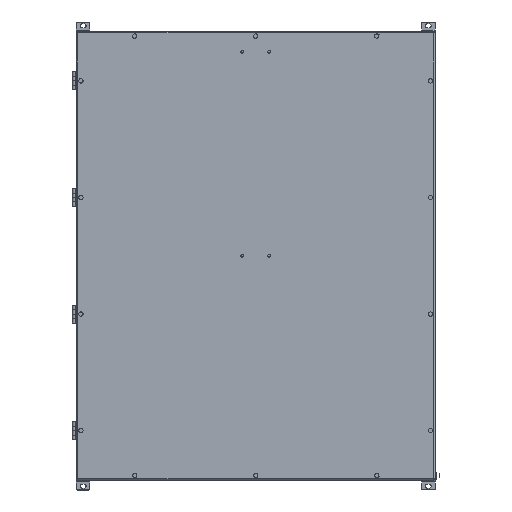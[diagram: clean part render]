
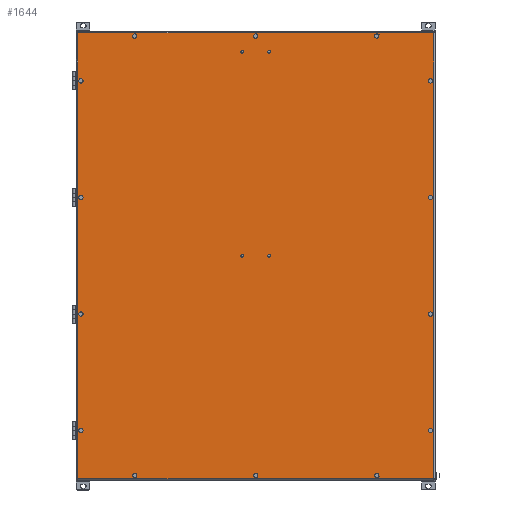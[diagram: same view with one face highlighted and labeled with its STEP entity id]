
A CAD part, top view. The second image highlights one B-rep face of the part: STEP entity #1644.
In plain terms, the highlighted planar face has unit normal (0, 0, 1).
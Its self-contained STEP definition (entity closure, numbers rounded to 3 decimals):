
#1064=CARTESIAN_POINT('',(-397.0,-497.0,300.5));
#1065=VERTEX_POINT('',#1064);
#1083=CARTESIAN_POINT('',(397.,-497.0,300.5));
#1084=VERTEX_POINT('',#1083);
#1092=CARTESIAN_POINT('',(397.0,-497.0,300.5));
#1093=DIRECTION('',(-1.0,0.0,0.0));
#1094=VECTOR('',#1093,794.0);
#1095=LINE('',#1092,#1094);
#1096=EDGE_CURVE('',#1084,#1065,#1095,.T.);
#1106=CARTESIAN_POINT('',(-397.,497.0,300.5));
#1107=VERTEX_POINT('',#1106);
#1132=CARTESIAN_POINT('',(-397.0,-497.,300.5));
#1133=DIRECTION('',(0.0,1.0,0.0));
#1134=VECTOR('',#1133,994.0);
#1135=LINE('',#1132,#1134);
#1136=EDGE_CURVE('',#1065,#1107,#1135,.T.);
#1146=CARTESIAN_POINT('',(397.0,497.0,300.5));
#1147=VERTEX_POINT('',#1146);
#1172=CARTESIAN_POINT('',(-397.,497.0,300.5));
#1173=DIRECTION('',(1.0,0.0,0.0));
#1174=VECTOR('',#1173,794.);
#1175=LINE('',#1172,#1174);
#1176=EDGE_CURVE('',#1107,#1147,#1175,.T.);
#1210=CARTESIAN_POINT('',(397.0,497.0,300.5));
#1211=DIRECTION('',(0.0,-1.0,0.0));
#1212=VECTOR('',#1211,994.0);
#1213=LINE('',#1210,#1212);
#1214=EDGE_CURVE('',#1147,#1084,#1213,.T.);
#1435=CARTESIAN_POINT('',(0.,0.,300.5));
#1436=DIRECTION('',(0.0,0.0,1.0));
#1437=DIRECTION('',(1.0,0.0,0.0));
#1438=AXIS2_PLACEMENT_3D('',#1435,#1436,#1437);
#1439=PLANE('',#1438);
#1440=ORIENTED_EDGE('',*,*,#1096,.F.);
#1441=ORIENTED_EDGE('',*,*,#1214,.F.);
#1442=ORIENTED_EDGE('',*,*,#1176,.F.);
#1443=ORIENTED_EDGE('',*,*,#1136,.F.);
#1444=EDGE_LOOP('',(#1440,#1441,#1442,#1443));
#1445=FACE_OUTER_BOUND('',#1444,.T.);
#1446=CARTESIAN_POINT('',(-386.25,390.0,300.5));
#1447=VERTEX_POINT('',#1446);
#1448=CARTESIAN_POINT('',(-390.,390.0,300.5));
#1449=DIRECTION('',(0.0,0.0,-1.0));
#1450=DIRECTION('',(-1.0,0.0,0.0));
#1451=AXIS2_PLACEMENT_3D('',#1448,#1449,#1450);
#1452=CIRCLE('',#1451,3.75);
#1453=EDGE_CURVE('',#1447,#1447,#1452,.T.);
#1454=ORIENTED_EDGE('',*,*,#1453,.T.);
#1455=EDGE_LOOP('',(#1454));
#1456=FACE_BOUND('',#1455,.T.);
#1457=CARTESIAN_POINT('',(393.75,390.,300.5));
#1458=VERTEX_POINT('',#1457);
#1459=CARTESIAN_POINT('',(390.,390.,300.5));
#1460=DIRECTION('',(0.0,0.0,-1.0));
#1461=DIRECTION('',(-1.0,0.0,0.0));
#1462=AXIS2_PLACEMENT_3D('',#1459,#1460,#1461);
#1463=CIRCLE('',#1462,3.75);
#1464=EDGE_CURVE('',#1458,#1458,#1463,.T.);
#1465=ORIENTED_EDGE('',*,*,#1464,.T.);
#1466=EDGE_LOOP('',(#1465));
#1467=FACE_BOUND('',#1466,.T.);
#1468=CARTESIAN_POINT('',(-386.25,130.,300.5));
#1469=VERTEX_POINT('',#1468);
#1470=CARTESIAN_POINT('',(-390.,130.,300.5));
#1471=DIRECTION('',(0.0,0.0,-1.0));
#1472=DIRECTION('',(-1.0,0.0,0.0));
#1473=AXIS2_PLACEMENT_3D('',#1470,#1471,#1472);
#1474=CIRCLE('',#1473,3.75);
#1475=EDGE_CURVE('',#1469,#1469,#1474,.T.);
#1476=ORIENTED_EDGE('',*,*,#1475,.T.);
#1477=EDGE_LOOP('',(#1476));
#1478=FACE_BOUND('',#1477,.T.);
#1479=CARTESIAN_POINT('',(393.75,130.,300.5));
#1480=VERTEX_POINT('',#1479);
#1481=CARTESIAN_POINT('',(390.,130.,300.5));
#1482=DIRECTION('',(0.0,0.0,-1.0));
#1483=DIRECTION('',(-1.0,0.0,0.0));
#1484=AXIS2_PLACEMENT_3D('',#1481,#1482,#1483);
#1485=CIRCLE('',#1484,3.75);
#1486=EDGE_CURVE('',#1480,#1480,#1485,.T.);
#1487=ORIENTED_EDGE('',*,*,#1486,.T.);
#1488=EDGE_LOOP('',(#1487));
#1489=FACE_BOUND('',#1488,.T.);
#1490=CARTESIAN_POINT('',(-386.25,-130.,300.5));
#1491=VERTEX_POINT('',#1490);
#1492=CARTESIAN_POINT('',(-390.,-130.,300.5));
#1493=DIRECTION('',(0.0,0.0,-1.0));
#1494=DIRECTION('',(-1.0,0.0,0.0));
#1495=AXIS2_PLACEMENT_3D('',#1492,#1493,#1494);
#1496=CIRCLE('',#1495,3.75);
#1497=EDGE_CURVE('',#1491,#1491,#1496,.T.);
#1498=ORIENTED_EDGE('',*,*,#1497,.T.);
#1499=EDGE_LOOP('',(#1498));
#1500=FACE_BOUND('',#1499,.T.);
#1501=CARTESIAN_POINT('',(393.75,-130.,300.5));
#1502=VERTEX_POINT('',#1501);
#1503=CARTESIAN_POINT('',(390.,-130.,300.5));
#1504=DIRECTION('',(0.0,0.0,-1.0));
#1505=DIRECTION('',(-1.0,0.0,0.0));
#1506=AXIS2_PLACEMENT_3D('',#1503,#1504,#1505);
#1507=CIRCLE('',#1506,3.75);
#1508=EDGE_CURVE('',#1502,#1502,#1507,.T.);
#1509=ORIENTED_EDGE('',*,*,#1508,.T.);
#1510=EDGE_LOOP('',(#1509));
#1511=FACE_BOUND('',#1510,.T.);
#1512=CARTESIAN_POINT('',(-386.25,-390.0,300.5));
#1513=VERTEX_POINT('',#1512);
#1514=CARTESIAN_POINT('',(-390.,-390.0,300.5));
#1515=DIRECTION('',(0.0,0.0,-1.0));
#1516=DIRECTION('',(-1.0,0.0,0.0));
#1517=AXIS2_PLACEMENT_3D('',#1514,#1515,#1516);
#1518=CIRCLE('',#1517,3.75);
#1519=EDGE_CURVE('',#1513,#1513,#1518,.T.);
#1520=ORIENTED_EDGE('',*,*,#1519,.T.);
#1521=EDGE_LOOP('',(#1520));
#1522=FACE_BOUND('',#1521,.T.);
#1523=CARTESIAN_POINT('',(393.75,-390.,300.5));
#1524=VERTEX_POINT('',#1523);
#1525=CARTESIAN_POINT('',(390.,-390.,300.5));
#1526=DIRECTION('',(0.0,0.0,-1.0));
#1527=DIRECTION('',(-1.0,0.0,0.0));
#1528=AXIS2_PLACEMENT_3D('',#1525,#1526,#1527);
#1529=CIRCLE('',#1528,3.75);
#1530=EDGE_CURVE('',#1524,#1524,#1529,.T.);
#1531=ORIENTED_EDGE('',*,*,#1530,.T.);
#1532=EDGE_LOOP('',(#1531));
#1533=FACE_BOUND('',#1532,.T.);
#1534=CARTESIAN_POINT('',(3.75,490.0,300.5));
#1535=VERTEX_POINT('',#1534);
#1536=CARTESIAN_POINT('',(0.,490.0,300.5));
#1537=DIRECTION('',(0.0,0.0,-1.0));
#1538=DIRECTION('',(-1.0,0.0,0.0));
#1539=AXIS2_PLACEMENT_3D('',#1536,#1537,#1538);
#1540=CIRCLE('',#1539,3.75);
#1541=EDGE_CURVE('',#1535,#1535,#1540,.T.);
#1542=ORIENTED_EDGE('',*,*,#1541,.T.);
#1543=EDGE_LOOP('',(#1542));
#1544=FACE_BOUND('',#1543,.T.);
#1545=CARTESIAN_POINT('',(3.75,-490.0,300.5));
#1546=VERTEX_POINT('',#1545);
#1547=CARTESIAN_POINT('',(0.,-490.0,300.5));
#1548=DIRECTION('',(0.0,0.0,-1.0));
#1549=DIRECTION('',(-1.0,0.0,0.0));
#1550=AXIS2_PLACEMENT_3D('',#1547,#1548,#1549);
#1551=CIRCLE('',#1550,3.75);
#1552=EDGE_CURVE('',#1546,#1546,#1551,.T.);
#1553=ORIENTED_EDGE('',*,*,#1552,.T.);
#1554=EDGE_LOOP('',(#1553));
#1555=FACE_BOUND('',#1554,.T.);
#1556=CARTESIAN_POINT('',(-266.25,490.0,300.5));
#1557=VERTEX_POINT('',#1556);
#1558=CARTESIAN_POINT('',(-270.0,490.0,300.5));
#1559=DIRECTION('',(0.0,0.0,-1.0));
#1560=DIRECTION('',(-1.0,0.0,0.0));
#1561=AXIS2_PLACEMENT_3D('',#1558,#1559,#1560);
#1562=CIRCLE('',#1561,3.75);
#1563=EDGE_CURVE('',#1557,#1557,#1562,.T.);
#1564=ORIENTED_EDGE('',*,*,#1563,.T.);
#1565=EDGE_LOOP('',(#1564));
#1566=FACE_BOUND('',#1565,.T.);
#1567=CARTESIAN_POINT('',(-266.25,-490.0,300.5));
#1568=VERTEX_POINT('',#1567);
#1569=CARTESIAN_POINT('',(-270.,-490.0,300.5));
#1570=DIRECTION('',(0.0,0.0,-1.0));
#1571=DIRECTION('',(-1.0,0.0,0.0));
#1572=AXIS2_PLACEMENT_3D('',#1569,#1570,#1571);
#1573=CIRCLE('',#1572,3.75);
#1574=EDGE_CURVE('',#1568,#1568,#1573,.T.);
#1575=ORIENTED_EDGE('',*,*,#1574,.T.);
#1576=EDGE_LOOP('',(#1575));
#1577=FACE_BOUND('',#1576,.T.);
#1578=CARTESIAN_POINT('',(273.75,490.0,300.5));
#1579=VERTEX_POINT('',#1578);
#1580=CARTESIAN_POINT('',(270.0,490.0,300.5));
#1581=DIRECTION('',(0.0,0.0,-1.0));
#1582=DIRECTION('',(-1.0,0.0,0.0));
#1583=AXIS2_PLACEMENT_3D('',#1580,#1581,#1582);
#1584=CIRCLE('',#1583,3.75);
#1585=EDGE_CURVE('',#1579,#1579,#1584,.T.);
#1586=ORIENTED_EDGE('',*,*,#1585,.T.);
#1587=EDGE_LOOP('',(#1586));
#1588=FACE_BOUND('',#1587,.T.);
#1589=CARTESIAN_POINT('',(273.75,-490.0,300.5));
#1590=VERTEX_POINT('',#1589);
#1591=CARTESIAN_POINT('',(270.,-490.0,300.5));
#1592=DIRECTION('',(0.0,0.0,-1.0));
#1593=DIRECTION('',(-1.0,0.0,0.0));
#1594=AXIS2_PLACEMENT_3D('',#1591,#1592,#1593);
#1595=CIRCLE('',#1594,3.75);
#1596=EDGE_CURVE('',#1590,#1590,#1595,.T.);
#1597=ORIENTED_EDGE('',*,*,#1596,.T.);
#1598=EDGE_LOOP('',(#1597));
#1599=FACE_BOUND('',#1598,.T.);
#1600=CARTESIAN_POINT('',(33.05,455.0,300.5));
#1601=VERTEX_POINT('',#1600);
#1602=CARTESIAN_POINT('',(30.,455.0,300.5));
#1603=DIRECTION('',(0.0,0.0,-1.0));
#1604=DIRECTION('',(-1.0,0.0,0.0));
#1605=AXIS2_PLACEMENT_3D('',#1602,#1603,#1604);
#1606=CIRCLE('',#1605,3.05);
#1607=EDGE_CURVE('',#1601,#1601,#1606,.T.);
#1608=ORIENTED_EDGE('',*,*,#1607,.T.);
#1609=EDGE_LOOP('',(#1608));
#1610=FACE_BOUND('',#1609,.T.);
#1611=CARTESIAN_POINT('',(-26.95,455.0,300.5));
#1612=VERTEX_POINT('',#1611);
#1613=CARTESIAN_POINT('',(-30.,455.0,300.5));
#1614=DIRECTION('',(0.0,0.0,-1.0));
#1615=DIRECTION('',(-1.0,0.0,0.0));
#1616=AXIS2_PLACEMENT_3D('',#1613,#1614,#1615);
#1617=CIRCLE('',#1616,3.05);
#1618=EDGE_CURVE('',#1612,#1612,#1617,.T.);
#1619=ORIENTED_EDGE('',*,*,#1618,.T.);
#1620=EDGE_LOOP('',(#1619));
#1621=FACE_BOUND('',#1620,.T.);
#1622=CARTESIAN_POINT('',(-26.95,0.,300.5));
#1623=VERTEX_POINT('',#1622);
#1624=CARTESIAN_POINT('',(-30.,0.,300.5));
#1625=DIRECTION('',(0.0,0.0,-1.0));
#1626=DIRECTION('',(-1.0,0.0,0.0));
#1627=AXIS2_PLACEMENT_3D('',#1624,#1625,#1626);
#1628=CIRCLE('',#1627,3.05);
#1629=EDGE_CURVE('',#1623,#1623,#1628,.T.);
#1630=ORIENTED_EDGE('',*,*,#1629,.T.);
#1631=EDGE_LOOP('',(#1630));
#1632=FACE_BOUND('',#1631,.T.);
#1633=CARTESIAN_POINT('',(33.05,0.,300.5));
#1634=VERTEX_POINT('',#1633);
#1635=CARTESIAN_POINT('',(30.,0.,300.5));
#1636=DIRECTION('',(0.0,0.0,-1.0));
#1637=DIRECTION('',(-1.0,0.0,0.0));
#1638=AXIS2_PLACEMENT_3D('',#1635,#1636,#1637);
#1639=CIRCLE('',#1638,3.05);
#1640=EDGE_CURVE('',#1634,#1634,#1639,.T.);
#1641=ORIENTED_EDGE('',*,*,#1640,.T.);
#1642=EDGE_LOOP('',(#1641));
#1643=FACE_BOUND('',#1642,.T.);
#1644=ADVANCED_FACE('',(#1445,#1456,#1467,#1478,#1489,#1500,#1511,#1522,#1533,#1544,#1555,#1566,#1577,#1588,#1599,#1610,#1621,#1632,#1643),#1439,.T.);
